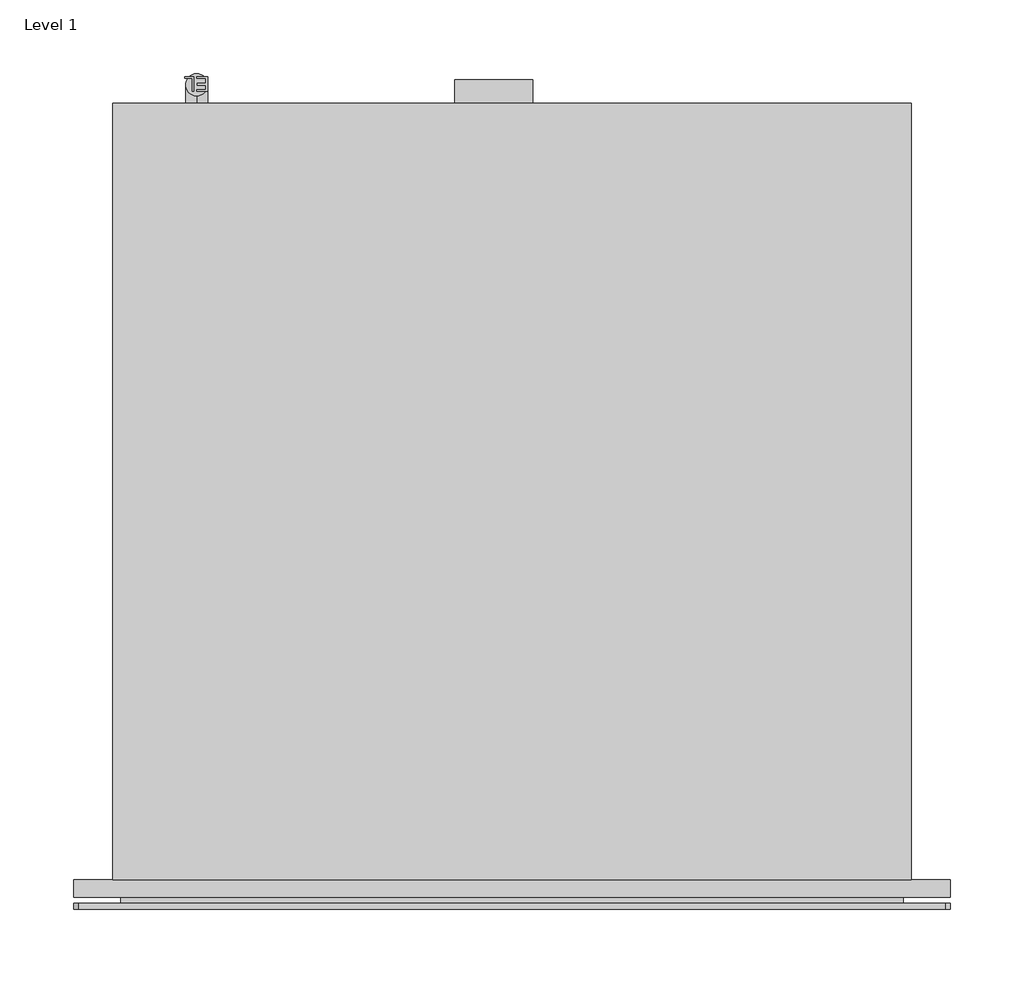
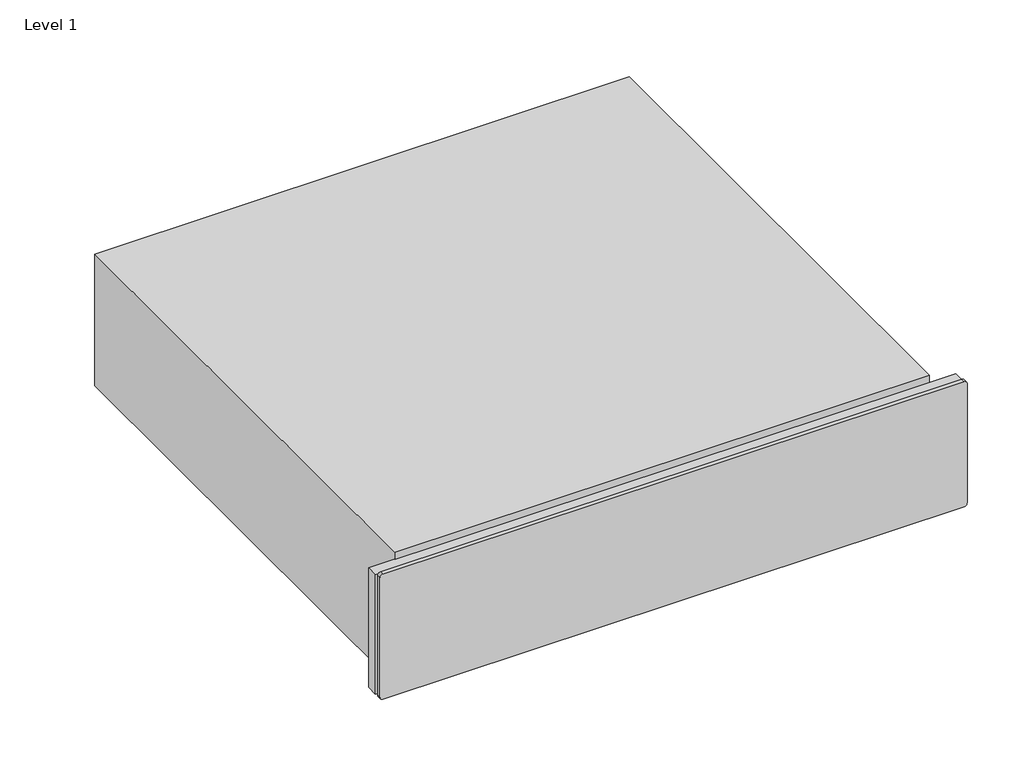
# One storey: 1 proxy.
"""IFC4 building model written with IfcOpenShell, lengths in millimetres."""

from ifc_helpers import new_model, si_unit, origin, place, context, project, spatial, transform, mapped, element, save
from components import specialty_equipment_169f8b40

model = new_model("IFC4")

# Units and contexts
model_context = context("Model", 3, world=origin())
ifc_project = project(units=[si_unit("LENGTHUNIT", "METRE", prefix="MILLI")], contexts=[model_context])

# Site, building, storey
site = spatial("IfcSite", under=ifc_project)
building = spatial("IfcBuilding", under=site)
storey = spatial("IfcBuildingStorey", under=building, Name="Level 1", Elevation=0.0)

# Proxy
placement = place(None, origin())
specialty_equipment_shape = specialty_equipment_169f8b40(model_context)
element("IfcBuildingElementProxy", 1, Name="11794720_USA_ESW7010_OBSW : 30701020_USA_11794720_ESW7010_OBSW", ObjectType="11794720_USA_ESW7010_OBSW : 30701020_USA_11794720_ESW7010_OBSW", at=placement, inside=storey, context=model_context, shape_type="MappedRepresentation", body=[
    mapped(specialty_equipment_shape, transform((0.0, 0.0, 0.0), x_axis=(1.0, 0.0, 0.0), y_axis=(0.0, 1.0, 0.0), z_axis=(0.0, 0.0, 1.0))),
])

save(model, "model.ifc")
